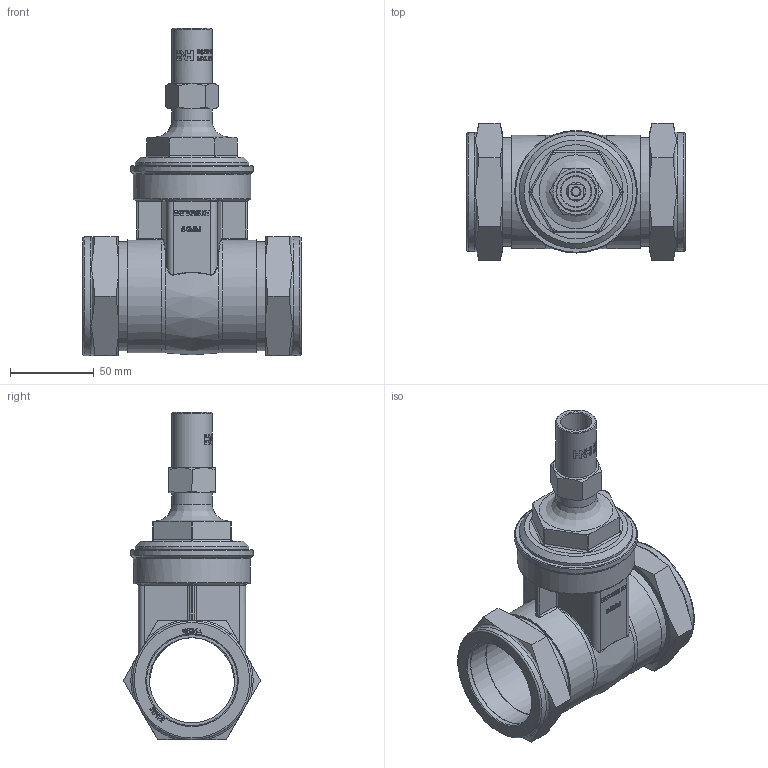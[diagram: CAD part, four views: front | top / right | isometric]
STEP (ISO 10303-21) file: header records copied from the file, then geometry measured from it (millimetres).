
FILE_DESCRIPTION((''),'2;1');
FILE_NAME('P:\Fastrack\53972_CRANE 3D\Gate Valves\Work Space\Lockshield\30CLS_54mm\30CLS_54mm.stp','2011-03-09T15:25:57',('btaylor'),(''),'Autodesk Inventor 2008','Autodesk Inventor 2008','');
FILE_SCHEMA(('AUTOMOTIVE_DESIGN { 1 0 10303 214 1 1 1 1 }'));
Length unit declared in the file: millimetre
Products named in the file (1): 30CLS_54mm
Bounding box: 130.52 x 81.98 x 195.5 mm (x, y, z)
Volume: 391277.7 mm3; surface area: 97792.9 mm2
Topology: 1 solids, 3 shells, 1201 faces, 3188 edges, 2082 vertices
Faces by surface type: plane 636, bspline 379, cylinder 100, cone 64, torus 22
Full cylindrical faces by diameter (mm): 6 x1, 11.2 x1, 11.5 x1, 16.7 x1, 18 x1, 22.376 x1, 24 x2, 54.275 x2, 54.3 x2, 54.35 x2, 65 x4, 67.6 x2, 67.8 x1, 70 x1, 70.9 x2, 73.2 x1
Entity records: 93780 total; most frequent: CARTESIAN_POINT 66044, ORIENTED_EDGE 6188, DIRECTION 4124, EDGE_CURVE 3094, VERTEX_POINT 2059, VECTOR 1706, LINE 1706, EDGE_LOOP 1367
